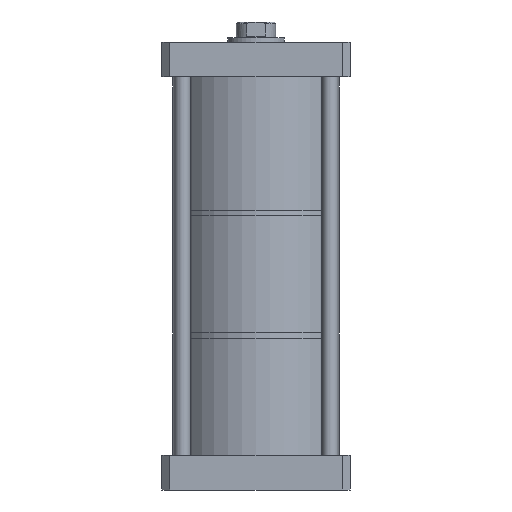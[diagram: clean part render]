
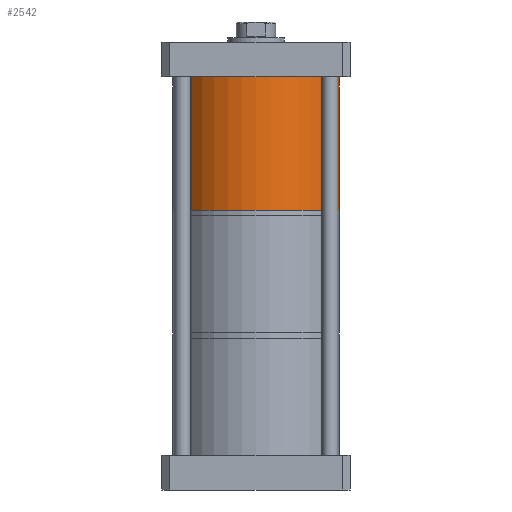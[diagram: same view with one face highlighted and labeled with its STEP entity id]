
A CAD part, front view. The second image highlights one B-rep face of the part: STEP entity #2542.
In plain terms, the highlighted cylindrical face has radius 53 mm (diameter 106 mm), a partial arc.
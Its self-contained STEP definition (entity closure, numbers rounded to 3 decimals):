
#45 = EDGE_LOOP ( 'NONE', ( #1291, #2279, #2339, #4069 ) ) ;
#247 = DIRECTION ( 'NONE',  ( 0., 0., 1. ) ) ;
#292 = AXIS2_PLACEMENT_3D ( 'NONE', #4148, #247, #917 ) ;
#425 = DIRECTION ( 'NONE',  ( 0., 0., 1. ) ) ;
#492 = EDGE_CURVE ( 'NONE', #2822, #1619, #2476, .T. ) ;
#917 = DIRECTION ( 'NONE',  ( 1., 0., 0. ) ) ;
#1048 = DIRECTION ( 'NONE',  ( -1., 0., 0. ) ) ;
#1057 = DIRECTION ( 'NONE',  ( 0., 0., -1. ) ) ;
#1071 = CARTESIAN_POINT ( 'NONE',  ( 24.746, 0., 0. ) ) ;
#1157 = CARTESIAN_POINT ( 'NONE',  ( 77.746, 0., -85. ) ) ;
#1281 = DIRECTION ( 'NONE',  ( -1., 0., 0. ) ) ;
#1285 = DIRECTION ( 'NONE',  ( 0., 0., -1. ) ) ;
#1291 = ORIENTED_EDGE ( 'NONE', *, *, #2332, .F. ) ;
#1294 = CARTESIAN_POINT ( 'NONE',  ( 24.746, 0., -85. ) ) ;
#1560 = CARTESIAN_POINT ( 'NONE',  ( 77.746, 0., -85. ) ) ;
#1603 = VERTEX_POINT ( 'NONE', #1769 ) ;
#1610 = VERTEX_POINT ( 'NONE', #1730 ) ;
#1619 = VERTEX_POINT ( 'NONE', #1759 ) ;
#1638 = AXIS2_PLACEMENT_3D ( 'NONE', #1071, #1057, #1048 ) ;
#1730 = CARTESIAN_POINT ( 'NONE',  ( -28.254, 0., 0. ) ) ;
#1747 = EDGE_CURVE ( 'NONE', #1603, #1610, #3787, .T. ) ;
#1759 = CARTESIAN_POINT ( 'NONE',  ( -28.254, 0., -85. ) ) ;
#1769 = CARTESIAN_POINT ( 'NONE',  ( 77.746, 0., 0. ) ) ;
#2001 = AXIS2_PLACEMENT_3D ( 'NONE', #1294, #1285, #1281 ) ;
#2073 = CARTESIAN_POINT ( 'NONE',  ( -28.254, 0., -85. ) ) ;
#2206 = LINE ( 'NONE', #1560, #3071 ) ;
#2279 = ORIENTED_EDGE ( 'NONE', *, *, #492, .F. ) ;
#2307 = CYLINDRICAL_SURFACE ( 'NONE', #292, 53. ) ;
#2332 = EDGE_CURVE ( 'NONE', #1619, #1610, #2364, .T. ) ;
#2339 = ORIENTED_EDGE ( 'NONE', *, *, #2571, .T. ) ;
#2364 = LINE ( 'NONE', #2073, #3124 ) ;
#2476 = CIRCLE ( 'NONE', #2001, 53. ) ;
#2542 = ADVANCED_FACE ( 'NONE', ( #3266 ), #2307, .T. ) ;
#2571 = EDGE_CURVE ( 'NONE', #2822, #1603, #2206, .T. ) ;
#2822 = VERTEX_POINT ( 'NONE', #1157 ) ;
#3071 = VECTOR ( 'NONE', #3177, 1000. ) ;
#3124 = VECTOR ( 'NONE', #425, 1000. ) ;
#3177 = DIRECTION ( 'NONE',  ( 0., 0., 1. ) ) ;
#3266 = FACE_OUTER_BOUND ( 'NONE', #45, .T. ) ;
#3787 = CIRCLE ( 'NONE', #1638, 53. ) ;
#4069 = ORIENTED_EDGE ( 'NONE', *, *, #1747, .T. ) ;
#4148 = CARTESIAN_POINT ( 'NONE',  ( 24.746, 0., -85. ) ) ;
